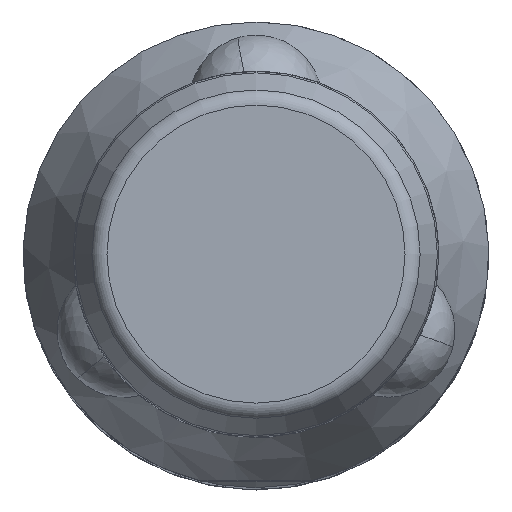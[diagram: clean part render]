
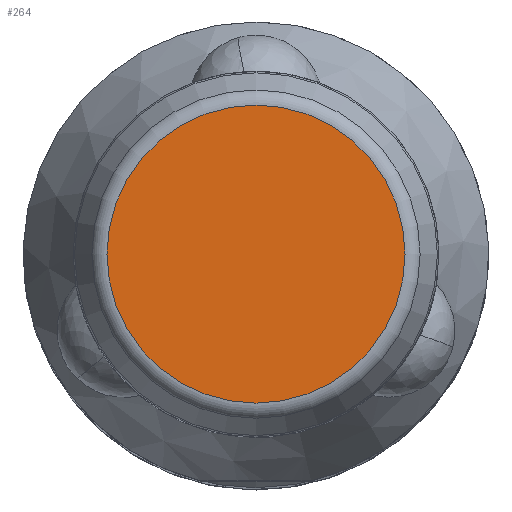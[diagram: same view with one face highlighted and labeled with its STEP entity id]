
A CAD part, top view. The second image highlights one B-rep face of the part: STEP entity #264.
In plain terms, the highlighted planar face has unit normal (0, 0, 1).
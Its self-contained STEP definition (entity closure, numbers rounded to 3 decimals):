
#152=PLANE('',#1510);
#264=ADVANCED_FACE('',(#465),#152,.F.);
#465=FACE_OUTER_BOUND('',#615,.T.);
#615=EDGE_LOOP('',(#890));
#890=ORIENTED_EDGE('',*,*,#1186,.T.);
#1047=VERTEX_POINT('',#2243);
#1186=EDGE_CURVE('',#1047,#1047,#1315,.T.);
#1315=CIRCLE('',#1478,4.482);
#1478=AXIS2_PLACEMENT_3D('',#2242,#1827,#1828);
#1510=AXIS2_PLACEMENT_3D('',#2724,#1895,#1896);
#1827=DIRECTION('',(0.,0.,1.));
#1828=DIRECTION('',(1.,0.,0.));
#1895=DIRECTION('',(0.,0.,-1.));
#1896=DIRECTION('',(1.,0.,0.));
#2242=CARTESIAN_POINT('',(0.,0.,0.));
#2243=CARTESIAN_POINT('',(4.482,0.,0.));
#2724=CARTESIAN_POINT('',(0.,0.,0.));
